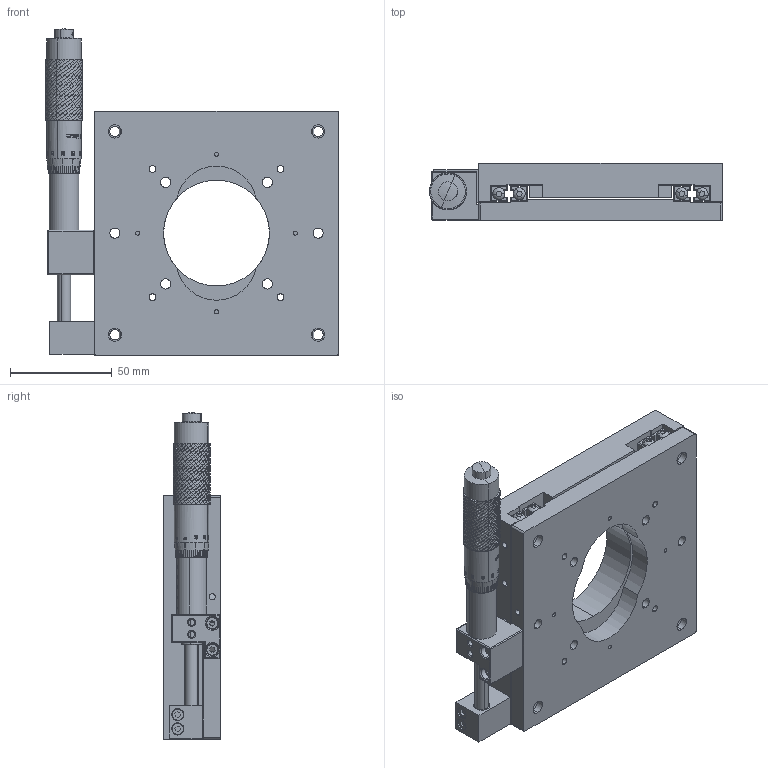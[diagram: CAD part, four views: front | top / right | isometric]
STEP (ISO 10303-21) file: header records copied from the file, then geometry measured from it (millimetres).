
FILE_DESCRIPTION (( 'STEP AP203' ), '1' );
FILE_NAME ('TSS120HX-2.STEP', '2017-02-21T07:27:46', ( '' ), ( '' ), 'SwSTEP 2.0', 'SolidWorks 2012', '' );
FILE_SCHEMA (( 'CONFIG_CONTROL_DESIGN' ));
Length unit declared in the file: millimetre
Products named in the file (1): TSS120HX-2
Bounding box: 144.1 x 28 x 160.44 mm (x, y, z)
Surface area: 100413.2 mm2 (no closed solid volume)
Topology: 0 solids, 92 shells, 2262 faces, 9583 edges, 6957 vertices
Faces by surface type: cylinder 981, bspline 973, plane 254, cone 30, torus 16, sphere 8
Entity records: 222878 total; most frequent: CARTESIAN_POINT 165488, ORIENTED_EDGE 15361, EDGE_CURVE 9577, VERTEX_POINT 6957, DIRECTION 6398, B_SPLINE_CURVE_WITH_KNOTS 3444, EDGE_LOOP 2605, AXIS2_PLACEMENT_3D 2430
